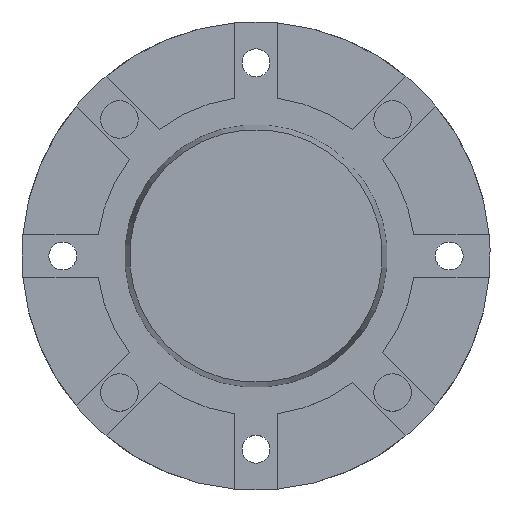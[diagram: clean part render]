
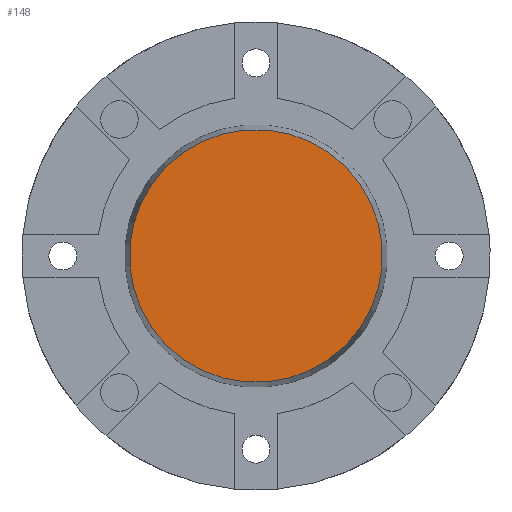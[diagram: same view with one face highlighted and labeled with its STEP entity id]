
A CAD part, top view. The second image highlights one B-rep face of the part: STEP entity #148.
In plain terms, the highlighted planar face has unit normal (0, 0, 1) as drawn and (1, 0, 0) by its records, which use the part's own axes.
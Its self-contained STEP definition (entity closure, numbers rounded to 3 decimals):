
#148=ADVANCED_FACE('',(#207),#1156,.T.);
#207=FACE_OUTER_BOUND('',#279,.T.);
#279=EDGE_LOOP('',(#468,#469));
#468=ORIENTED_EDGE('',*,*,#713,.F.);
#469=ORIENTED_EDGE('',*,*,#716,.F.);
#713=EDGE_CURVE('',#1093,#1095,#820,.T.);
#716=EDGE_CURVE('',#1095,#1093,#822,.T.);
#820=TRIMMED_CURVE($,#892,(#2078),(#2079),.T.,.CARTESIAN.);
#822=TRIMMED_CURVE($,#894,(#2086),(#2087),.T.,.CARTESIAN.);
#892=CIRCLE('',#1445,54.);
#894=CIRCLE('',#1447,54.);
#1093=VERTEX_POINT('',#1852);
#1095=VERTEX_POINT('',#1854);
#1156=PLANE('',#1373);
#1373=AXIS2_PLACEMENT_3D('',#1725,#1508,$);
#1445=AXIS2_PLACEMENT_3D($,#2077,#1614,#1615);
#1447=AXIS2_PLACEMENT_3D($,#2085,#1618,#1619);
#1508=DIRECTION('',(1.,0.,0.));
#1614=DIRECTION('',(-1.,0.,0.));
#1615=DIRECTION('',(0.,0.,1.));
#1618=DIRECTION('',(-1.,0.,0.));
#1619=DIRECTION('',(0.,0.,-1.));
#1725=CARTESIAN_POINT('',(20.,-64.86,-64.86));
#1852=CARTESIAN_POINT('',(20.,0.,54.));
#1854=CARTESIAN_POINT('',(20.,0.,-54.));
#2077=CARTESIAN_POINT('',(20.,0.,0.));
#2078=CARTESIAN_POINT('',(20.,0.,54.));
#2079=CARTESIAN_POINT('',(20.,0.,-54.));
#2085=CARTESIAN_POINT('',(20.,0.,0.));
#2086=CARTESIAN_POINT('',(20.,0.,-54.));
#2087=CARTESIAN_POINT('',(20.,0.,54.));
